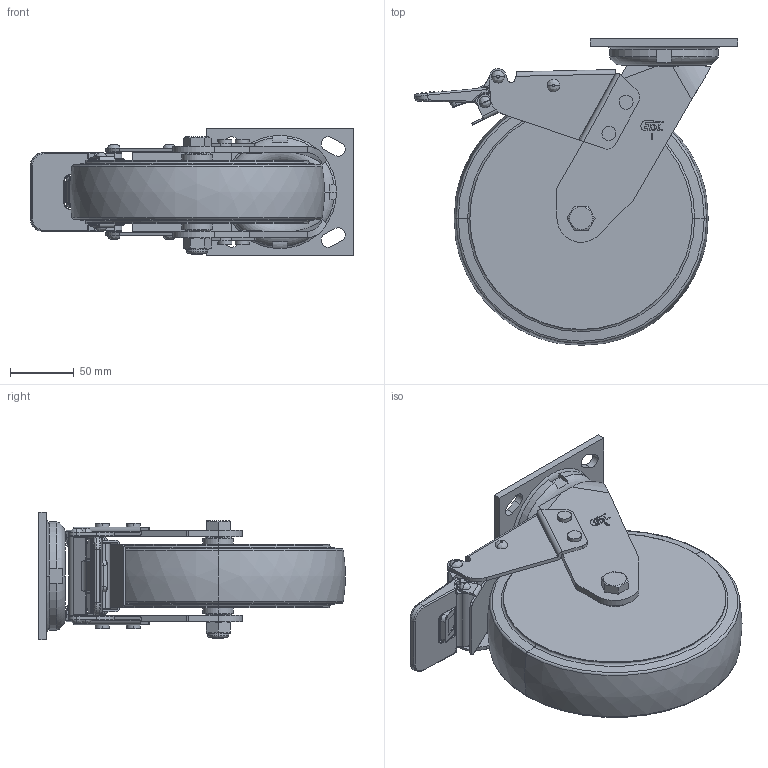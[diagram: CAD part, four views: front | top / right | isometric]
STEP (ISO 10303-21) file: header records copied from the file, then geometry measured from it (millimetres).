
FILE_DESCRIPTION((''),'2;1');
FILE_NAME('73128H-738-86_ASM','2020-11-28T',('lenovo'),(''),'PRO/ENGINEER BY PARAMETRIC TECHNOLOGY CORPORATION, 2010280','PRO/ENGINEER BY PARAMETRIC TECHNOLOGY CORPORATION, 2010280','');
FILE_SCHEMA(('CONFIG_CONTROL_DESIGN'));
Length unit declared in the file: millimetre
Products named in the file (12): 7310-201; 7310-211; 7318-355; 7318-321_ASM; 7318-525; 700-64OFF; 7338-401; 700-64ON; 738-86; 7010-33; 7010-34; 73128H-738-86_ASM
Assembly tree (11 placements, depth 3):
  73128H-738-86_ASM
    7310-201
    7318-321_ASM
      7310-211
      7318-355
    7318-525
    700-64OFF
    7338-401
    700-64ON
    738-86
    7010-33
    7010-34
Bounding box: 254.12 x 240.83 x 100 mm (x, y, z)
Volume: 1834932.9 mm3; surface area: 236666.3 mm2
Topology: 11 solids, 11 shells, 706 faces, 1716 edges, 1058 vertices
Faces by surface type: plane 330, cylinder 204, torus 72, bspline 60, cone 38, sphere 2
Entity records: 24104 total; most frequent: CARTESIAN_POINT 7456, ORIENTED_EDGE 3432, DIRECTION 3412, EDGE_CURVE 1716, AXIS2_PLACEMENT_3D 1226, VERTEX_POINT 1058, VECTOR 960, LINE 960
